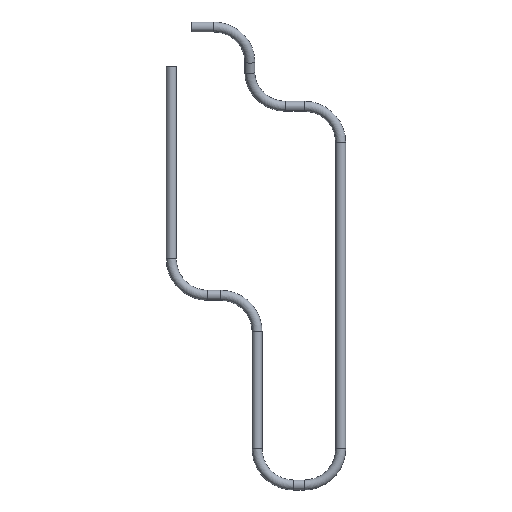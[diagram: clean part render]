
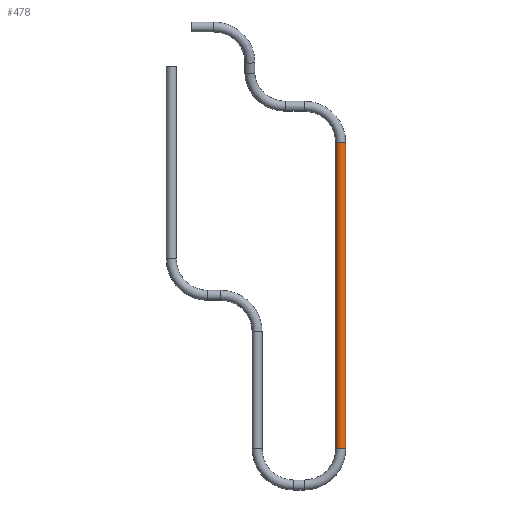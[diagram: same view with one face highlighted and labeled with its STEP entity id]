
A CAD part, top view. The second image highlights one B-rep face of the part: STEP entity #478.
In plain terms, the highlighted cylindrical face has radius 0.685 mm (diameter 1.37 mm), a full revolution.
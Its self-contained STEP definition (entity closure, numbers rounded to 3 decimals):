
#412 = TOROIDAL_SURFACE('',#413,5.,0.685);
#413 = AXIS2_PLACEMENT_3D('',#414,#415,#416);
#414 = CARTESIAN_POINT('',(26.5,-39.096,-21.));
#415 = DIRECTION('',(-0.,0.,1.));
#416 = DIRECTION('',(0.,-1.,0.));
#429 = VERTEX_POINT('',#430);
#430 = CARTESIAN_POINT('',(31.5,-39.096,-21.685));
#451 = EDGE_CURVE('',#429,#429,#452,.T.);
#452 = SURFACE_CURVE('',#453,(#458,#465),.PCURVE_S1.);
#453 = CIRCLE('',#454,0.685);
#454 = AXIS2_PLACEMENT_3D('',#455,#456,#457);
#455 = CARTESIAN_POINT('',(31.5,-39.096,-21.));
#456 = DIRECTION('',(0.,-1.,0.));
#457 = DIRECTION('',(1.,0.,0.));
#458 = PCURVE('',#412,#459);
#459 = DEFINITIONAL_REPRESENTATION('',(#460),#464);
#460 = LINE('',#461,#462);
#461 = CARTESIAN_POINT('',(1.571,0.));
#462 = VECTOR('',#463,1.);
#463 = DIRECTION('',(0.,1.));
#464 = ( GEOMETRIC_REPRESENTATION_CONTEXT(2) 
PARAMETRIC_REPRESENTATION_CONTEXT() REPRESENTATION_CONTEXT('2D SPACE',''
  ) );
#465 = PCURVE('',#466,#471);
#466 = CYLINDRICAL_SURFACE('',#467,0.685);
#467 = AXIS2_PLACEMENT_3D('',#468,#469,#470);
#468 = CARTESIAN_POINT('',(31.5,-39.096,-21.));
#469 = DIRECTION('',(0.,1.,0.));
#470 = DIRECTION('',(0.,0.,-1.));
#471 = DEFINITIONAL_REPRESENTATION('',(#472),#475);
#472 = B_SPLINE_CURVE_WITH_KNOTS('',1,(#473,#474),.UNSPECIFIED.,.F.,.F.,
  (2,2),(4.712,10.996),.PIECEWISE_BEZIER_KNOTS.);
#473 = CARTESIAN_POINT('',(6.283,0.));
#474 = CARTESIAN_POINT('',(0.,0.));
#475 = ( GEOMETRIC_REPRESENTATION_CONTEXT(2) 
PARAMETRIC_REPRESENTATION_CONTEXT() REPRESENTATION_CONTEXT('2D SPACE',''
  ) );
#478 = ADVANCED_FACE('',(#479),#466,.T.);
#479 = FACE_BOUND('',#480,.T.);
#480 = EDGE_LOOP('',(#481,#503,#529,#530));
#481 = ORIENTED_EDGE('',*,*,#482,.T.);
#482 = EDGE_CURVE('',#429,#483,#485,.T.);
#483 = VERTEX_POINT('',#484);
#484 = CARTESIAN_POINT('',(31.5,3.,-21.685));
#485 = SEAM_CURVE('',#486,(#490,#496),.PCURVE_S1.);
#486 = LINE('',#487,#488);
#487 = CARTESIAN_POINT('',(31.5,-39.096,-21.685));
#488 = VECTOR('',#489,1.);
#489 = DIRECTION('',(0.,1.,0.));
#490 = PCURVE('',#466,#491);
#491 = DEFINITIONAL_REPRESENTATION('',(#492),#495);
#492 = B_SPLINE_CURVE_WITH_KNOTS('',1,(#493,#494),.UNSPECIFIED.,.F.,.F.,
  (2,2),(0.,42.096),.PIECEWISE_BEZIER_KNOTS.);
#493 = CARTESIAN_POINT('',(6.283,0.));
#494 = CARTESIAN_POINT('',(6.283,42.096));
#495 = ( GEOMETRIC_REPRESENTATION_CONTEXT(2) 
PARAMETRIC_REPRESENTATION_CONTEXT() REPRESENTATION_CONTEXT('2D SPACE',''
  ) );
#496 = PCURVE('',#466,#497);
#497 = DEFINITIONAL_REPRESENTATION('',(#498),#502);
#498 = LINE('',#499,#500);
#499 = CARTESIAN_POINT('',(0.,0.));
#500 = VECTOR('',#501,1.);
#501 = DIRECTION('',(0.,1.));
#502 = ( GEOMETRIC_REPRESENTATION_CONTEXT(2) 
PARAMETRIC_REPRESENTATION_CONTEXT() REPRESENTATION_CONTEXT('2D SPACE',''
  ) );
#503 = ORIENTED_EDGE('',*,*,#504,.F.);
#504 = EDGE_CURVE('',#483,#483,#505,.T.);
#505 = SURFACE_CURVE('',#506,(#511,#518),.PCURVE_S1.);
#506 = CIRCLE('',#507,0.685);
#507 = AXIS2_PLACEMENT_3D('',#508,#509,#510);
#508 = CARTESIAN_POINT('',(31.5,3.,-21.));
#509 = DIRECTION('',(0.,1.,0.));
#510 = DIRECTION('',(0.,0.,-1.));
#511 = PCURVE('',#466,#512);
#512 = DEFINITIONAL_REPRESENTATION('',(#513),#517);
#513 = LINE('',#514,#515);
#514 = CARTESIAN_POINT('',(0.,42.096));
#515 = VECTOR('',#516,1.);
#516 = DIRECTION('',(1.,0.));
#517 = ( GEOMETRIC_REPRESENTATION_CONTEXT(2) 
PARAMETRIC_REPRESENTATION_CONTEXT() REPRESENTATION_CONTEXT('2D SPACE',''
  ) );
#518 = PCURVE('',#519,#524);
#519 = TOROIDAL_SURFACE('',#520,5.,0.685);
#520 = AXIS2_PLACEMENT_3D('',#521,#522,#523);
#521 = CARTESIAN_POINT('',(26.503,3.,-20.82));
#522 = DIRECTION('',(0.036,0.,
    0.999));
#523 = DIRECTION('',(0.999,0.,-0.036
    ));
#524 = DEFINITIONAL_REPRESENTATION('',(#525),#528);
#525 = B_SPLINE_CURVE_WITH_KNOTS('',1,(#526,#527),.UNSPECIFIED.,.F.,.F.,
  (2,2),(0.,6.283),.PIECEWISE_BEZIER_KNOTS.);
#526 = CARTESIAN_POINT('',(0.,11.032));
#527 = CARTESIAN_POINT('',(0.,4.748));
#528 = ( GEOMETRIC_REPRESENTATION_CONTEXT(2) 
PARAMETRIC_REPRESENTATION_CONTEXT() REPRESENTATION_CONTEXT('2D SPACE',''
  ) );
#529 = ORIENTED_EDGE('',*,*,#482,.F.);
#530 = ORIENTED_EDGE('',*,*,#451,.F.);
